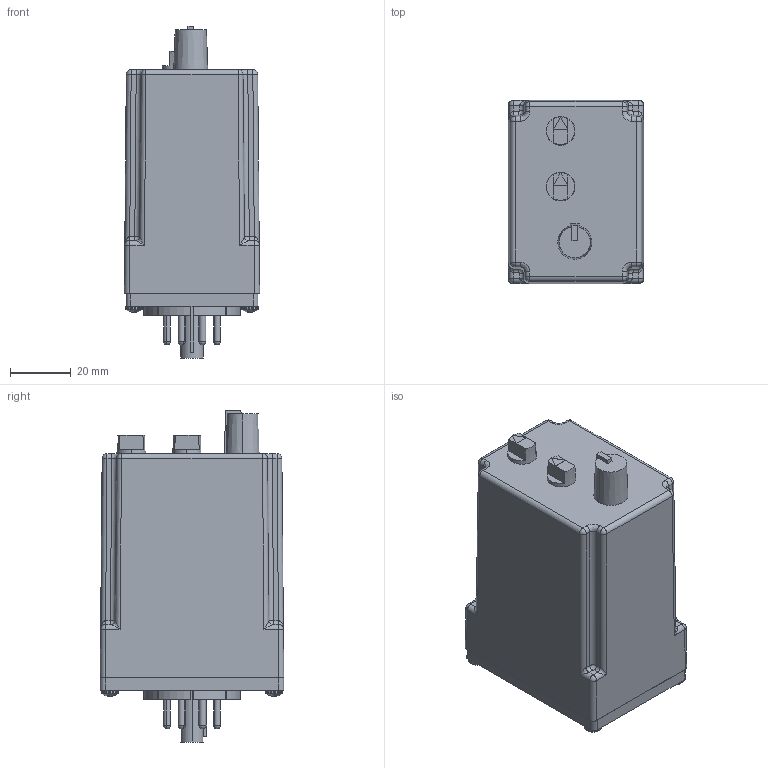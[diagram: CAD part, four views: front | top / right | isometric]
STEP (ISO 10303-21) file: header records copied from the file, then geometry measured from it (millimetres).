
FILE_DESCRIPTION (( 'STEP AP214' ), '1' );
FILE_NAME ('TR-6 Multi.STEP', '2019-05-21T00:04:28', ( '' ), ( '' ), 'SwSTEP 2.0', 'SolidWorks 2019', '' );
FILE_SCHEMA (( 'AUTOMOTIVE_DESIGN' ));
Length unit declared in the file: millimetre
Products named in the file (1): TR-6 Multi
Bounding box: 44.45 x 60.33 x 109.09 mm (x, y, z)
Volume: 202262.2 mm3; surface area: 29995.1 mm2
Topology: 17 solids, 17 shells, 716 faces, 1879 edges, 1194 vertices
Faces by surface type: cylinder 280, plane 247, bspline 114, cone 47, sphere 28
Entity records: 33115 total; most frequent: CARTESIAN_POINT 16696, ORIENTED_EDGE 3662, DIRECTION 2727, EDGE_CURVE 1831, VERTEX_POINT 1178, AXIS2_PLACEMENT_3D 955, LINE 817, VECTOR 817
